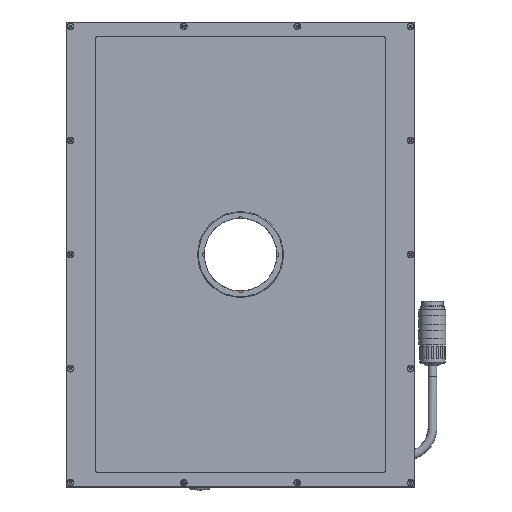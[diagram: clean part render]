
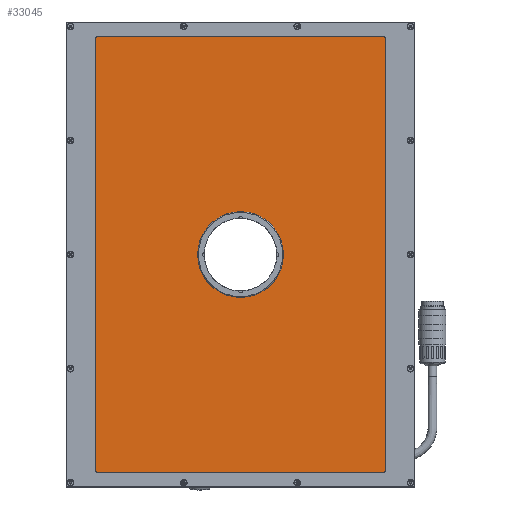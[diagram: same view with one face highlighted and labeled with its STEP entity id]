
A CAD part, top view. The second image highlights one B-rep face of the part: STEP entity #33045.
In plain terms, the highlighted planar face has unit normal (0, 0, 1).
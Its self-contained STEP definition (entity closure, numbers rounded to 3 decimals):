
#908=PLANE('',#35245);
#3233=LINE('',#55761,#4998);
#3236=LINE('',#55769,#5001);
#3239=LINE('',#55777,#5004);
#3240=LINE('',#55779,#5005);
#4998=VECTOR('',#41297,1000.);
#5001=VECTOR('',#41306,1000.);
#5004=VECTOR('',#41315,1000.);
#5005=VECTOR('',#41318,1000.);
#11533=ORIENTED_EDGE('',*,*,#14839,.T.);
#11534=ORIENTED_EDGE('',*,*,#14828,.F.);
#11535=ORIENTED_EDGE('',*,*,#14825,.T.);
#11536=ORIENTED_EDGE('',*,*,#14827,.F.);
#11537=ORIENTED_EDGE('',*,*,#14821,.T.);
#11538=ORIENTED_EDGE('',*,*,#14823,.F.);
#11539=ORIENTED_EDGE('',*,*,#14817,.T.);
#11540=ORIENTED_EDGE('',*,*,#14819,.F.);
#11541=ORIENTED_EDGE('',*,*,#14814,.T.);
#14814=EDGE_CURVE('',#17083,#17082,#17968,.F.);
#14817=EDGE_CURVE('',#17085,#17084,#17969,.F.);
#14819=EDGE_CURVE('',#17083,#17084,#3233,.T.);
#14821=EDGE_CURVE('',#17087,#17086,#17970,.F.);
#14823=EDGE_CURVE('',#17085,#17086,#3236,.T.);
#14825=EDGE_CURVE('',#17089,#17088,#17971,.F.);
#14827=EDGE_CURVE('',#17087,#17088,#3239,.T.);
#14828=EDGE_CURVE('',#17089,#17082,#3240,.T.);
#14839=EDGE_CURVE('',#17098,#17098,#17976,.T.);
#17082=VERTEX_POINT('',#55750);
#17083=VERTEX_POINT('',#55752);
#17084=VERTEX_POINT('',#55756);
#17085=VERTEX_POINT('',#55758);
#17086=VERTEX_POINT('',#55764);
#17087=VERTEX_POINT('',#55766);
#17088=VERTEX_POINT('',#55772);
#17089=VERTEX_POINT('',#55774);
#17098=VERTEX_POINT('',#55803);
#17968=CIRCLE('',#35227,2.);
#17969=CIRCLE('',#35229,2.);
#17970=CIRCLE('',#35232,2.);
#17971=CIRCLE('',#35235,2.);
#17976=CIRCLE('',#35246,27.5);
#19682=EDGE_LOOP('',(#11533));
#19683=EDGE_LOOP('',(#11534,#11535,#11536,#11537,#11538,#11539,#11540,#11541));
#21485=FACE_BOUND('',#19682,.T.);
#21486=FACE_BOUND('',#19683,.T.);
#33045=ADVANCED_FACE('',(#21485,#21486),#908,.T.);
#35227=AXIS2_PLACEMENT_3D('',#55751,#41286,#41287);
#35229=AXIS2_PLACEMENT_3D('',#55757,#41292,#41293);
#35232=AXIS2_PLACEMENT_3D('',#55765,#41301,#41302);
#35235=AXIS2_PLACEMENT_3D('',#55773,#41310,#41311);
#35245=AXIS2_PLACEMENT_3D('',#55801,#41339,#41340);
#35246=AXIS2_PLACEMENT_3D('',#55802,#41341,#41342);
#41286=DIRECTION('',(0.,0.,-1.));
#41287=DIRECTION('',(1.,0.,0.));
#41292=DIRECTION('',(0.,0.,-1.));
#41293=DIRECTION('',(1.,0.,0.));
#41297=DIRECTION('',(0.,1.,0.));
#41301=DIRECTION('',(0.,0.,-1.));
#41302=DIRECTION('',(1.,0.,0.));
#41306=DIRECTION('',(1.,0.,0.));
#41310=DIRECTION('',(0.,0.,-1.));
#41311=DIRECTION('',(1.,0.,0.));
#41315=DIRECTION('',(0.,-1.,0.));
#41318=DIRECTION('',(-1.,0.,0.));
#41339=DIRECTION('',(0.,0.,1.));
#41340=DIRECTION('',(1.,0.,0.));
#41341=DIRECTION('',(0.,0.,-1.));
#41342=DIRECTION('',(0.,1.,0.));
#55750=CARTESIAN_POINT('',(-98.5,-150.5,11.05));
#55751=CARTESIAN_POINT('',(-98.5,-148.5,11.05));
#55752=CARTESIAN_POINT('',(-100.5,-148.5,11.05));
#55756=CARTESIAN_POINT('',(-100.5,148.5,11.05));
#55757=CARTESIAN_POINT('',(-98.5,148.5,11.05));
#55758=CARTESIAN_POINT('',(-98.5,150.5,11.05));
#55761=CARTESIAN_POINT('',(-100.5,-150.5,11.05));
#55764=CARTESIAN_POINT('',(98.5,150.5,11.05));
#55765=CARTESIAN_POINT('',(98.5,148.5,11.05));
#55766=CARTESIAN_POINT('',(100.5,148.5,11.05));
#55769=CARTESIAN_POINT('',(-100.5,150.5,11.05));
#55772=CARTESIAN_POINT('',(100.5,-148.5,11.05));
#55773=CARTESIAN_POINT('',(98.5,-148.5,11.05));
#55774=CARTESIAN_POINT('',(98.5,-150.5,11.05));
#55777=CARTESIAN_POINT('',(100.5,150.5,11.05));
#55779=CARTESIAN_POINT('',(100.5,-150.5,11.05));
#55801=CARTESIAN_POINT('',(0.,0.,
11.05));
#55802=CARTESIAN_POINT('',(0.,0.,
11.05));
#55803=CARTESIAN_POINT('',(0.,27.5,11.05));
